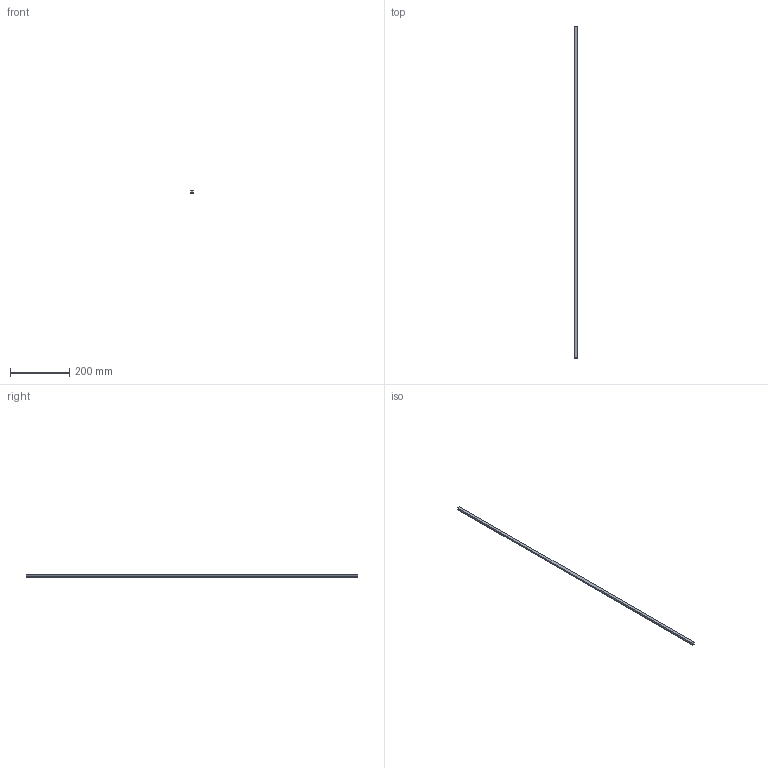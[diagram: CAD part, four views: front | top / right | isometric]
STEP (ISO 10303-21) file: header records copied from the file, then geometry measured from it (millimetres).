
FILE_DESCRIPTION(('CAx-IF Rec.Pracs.---Model Styling and Organization---1.2---2011-12-15','CAx-IF Rec.Pracs.---Geometric and Assembly Validation Properties---4.1---2014-06-16','CAx-IF Rec.Pracs.---PMI Polyline Presentation---2.0---2013-05-24'),'2;1');
FILE_NAME('01WY911Y1Q.stp','2017-02-01T13:16:02+01:00',(''),(''),'STEP Interface 4.0 Sp1 by CT CoreTechnologie','3D_Evolution4.0 Sp1 by CT CoreTechnologie','');
FILE_SCHEMA(('AP203_CONFIGURATION_CONTROLLED_3D_DESIGN_OF_MECHANICAL_PARTS_AND_ASSEMBLIES_MIM_LF'));
Length unit declared in the file: metre
Products named in the file (1): 01W-911-1Q
Bounding box: 10.3 x 1120 x 7.9 mm (x, y, z)
Volume: 60822.1 mm3; surface area: 42641.6 mm2
Topology: 1 solids, 1 shells, 16 faces, 42 edges, 28 vertices
Faces by surface type: plane 14, cylinder 2
Entity records: 634 total; most frequent: CARTESIAN_POINT 87, ORIENTED_EDGE 84, DIRECTION 80, EDGE_CURVE 42, VECTOR 38, LINE 38, VERTEX_POINT 28, AXIS2_PLACEMENT_3D 21
